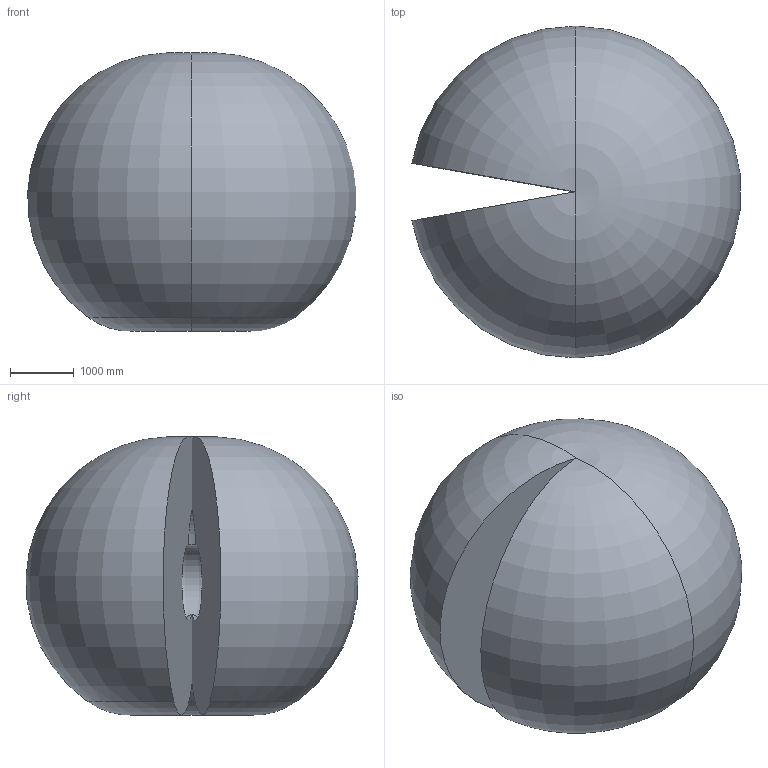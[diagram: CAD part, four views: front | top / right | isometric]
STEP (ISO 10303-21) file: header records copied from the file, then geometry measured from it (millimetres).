
FILE_DESCRIPTION (( 'STEP AP214' ), '1' );
FILE_NAME ('IRB5720-LID_155kg-260_OmniCore_rev00_Working-space.step', '2025-07-08T11:06:11', ( '' ), ( '' ), 'SwSTEP 2.0', 'SolidWorks 2024', '' );
FILE_SCHEMA (( 'AUTOMOTIVE_DESIGN' ));
Length unit declared in the file: millimetre
Products named in the file (1): IRB5720-LID_155kg-260_OmniCore_rev00_Working-space
Bounding box: 5142.1 x 5195.79 x 4356.06 mm (x, y, z)
Volume: 60626151587.6 mm3; surface area: 101018468.2 mm2
Topology: 1 solids, 1 shells, 14 faces, 36 edges, 12 vertices
Faces by surface type: torus 12, plane 2
Entity records: 478 total; most frequent: DIRECTION 76, CARTESIAN_POINT 51, ORIENTED_EDGE 48, AXIS2_PLACEMENT_3D 37, EDGE_CURVE 24, CIRCLE 22, FACE_OUTER_BOUND 14, ADVANCED_FACE 14
